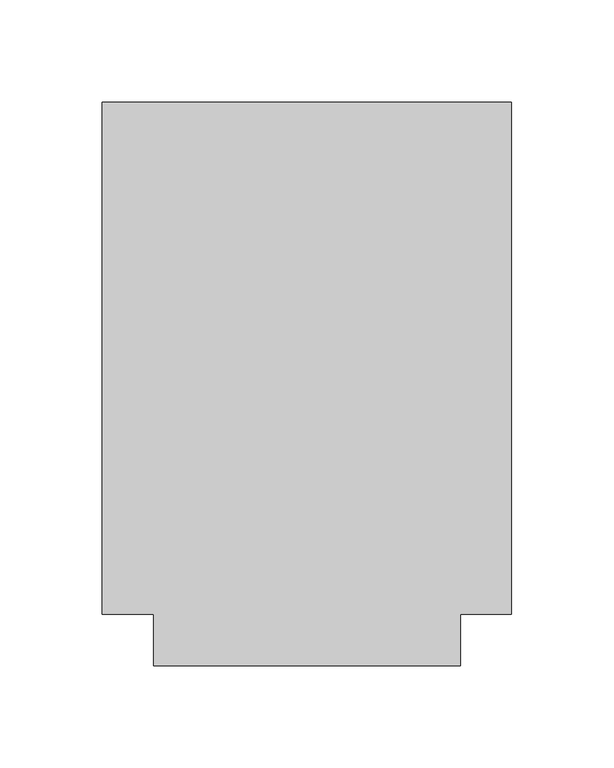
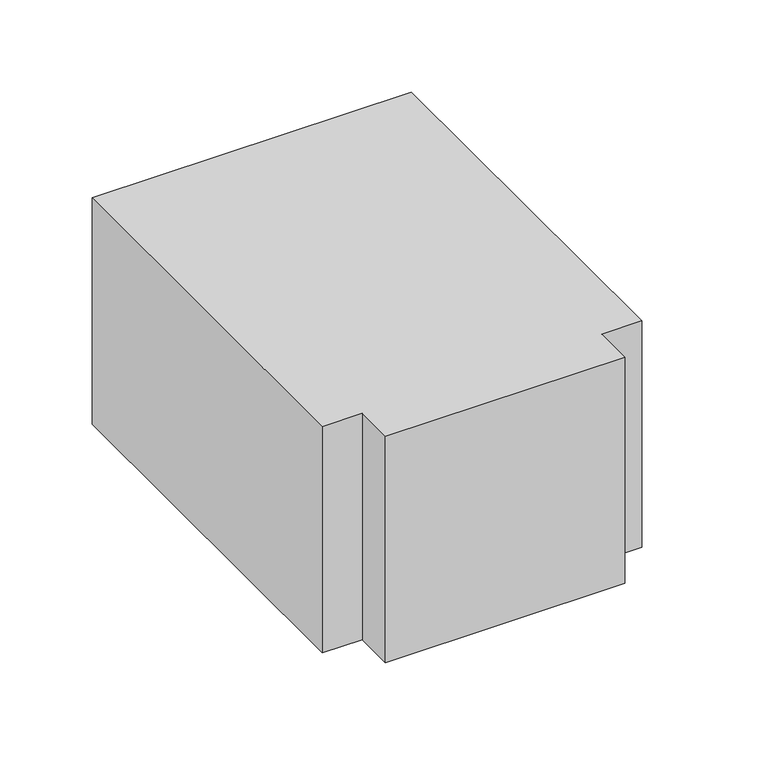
"""IFC4 building model written with IfcOpenShell, lengths in millimetres: duct fitting geometry, M_Te rectangular : Estándar."""

from ifc_helpers import new_model, si_unit, frame, origin, place, context, project, spatial, polyline, outline, extrude, source, transform, mapped, element, save


def duct_fitting_6cfb8ab3(model_context):
    return source(origin(), model_context, "Body", "SweptSolid", [
        extrude(outline(polyline([(-100.0, -125.0), (-100.0, 125.0), (100.0, 125.0), (100.0, -125.0), (75.0, -125.0), (75.0, -150.0), (-75.0, -150.0), (-75.0, -125.0), (-100.0, -125.0)])), frame((0.0, 0.0, -75.0), z_axis=(0.0, 0.0, 1.0), x_axis=(1.0, 0.0, 0.0)), (0.0, 0.0, 1.0), 150.0),
    ])


if __name__ == "__main__":
    model = new_model("IFC4")
    model_context = context("Model", 3, world=origin())
    ifc_project = project(units=[si_unit("LENGTHUNIT", "METRE", prefix="MILLI")], contexts=[model_context])
    site = spatial("IfcSite", under=ifc_project)
    building = spatial("IfcBuilding", under=site)
    placement = place(None, origin())
    duct_fitting_shape = duct_fitting_6cfb8ab3(model_context)
    element("IfcDuctFitting", 1, ObjectType="M_Te rectangular : Estándar", at=placement, inside=building, context=model_context, shape_type="MappedRepresentation", body=[
        mapped(duct_fitting_shape, transform((0.0, 0.0, 0.0), x_axis=(1.0, 0.0, 0.0), y_axis=(0.0, 1.0, 0.0), z_axis=(0.0, 0.0, 1.0))),
    ])
    save(model, "model.ifc")
